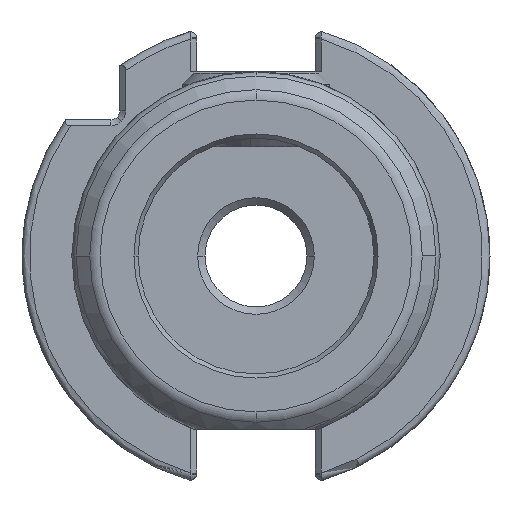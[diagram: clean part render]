
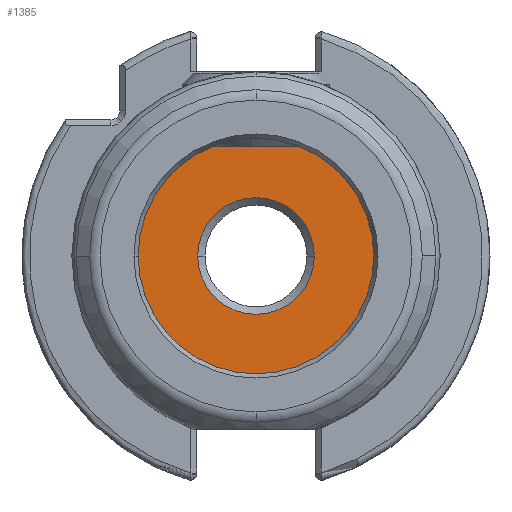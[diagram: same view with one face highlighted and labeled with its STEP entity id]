
A CAD part, front view. The second image highlights one B-rep face of the part: STEP entity #1385.
In plain terms, the highlighted planar face has unit normal (0, -1, 0).
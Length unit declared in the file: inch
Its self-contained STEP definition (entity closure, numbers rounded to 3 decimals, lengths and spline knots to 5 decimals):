
#1014 = FACE_BOUND ( 'NONE', #3598, .T. ) ;
#1130 = CIRCLE ( 'NONE', #7234, 0.64961 ) ;
#1143 = CIRCLE ( 'NONE', #10245, 0.64961 ) ;
#1376 = VERTEX_POINT ( 'NONE', #12884 ) ;
#1385 = ADVANCED_FACE ( 'NONE', ( #1014, #10292 ), #3394, .F. ) ;
#1591 = ORIENTED_EDGE ( 'NONE', *, *, #12943, .F. ) ;
#2280 = EDGE_LOOP ( 'NONE', ( #9679, #1591 ) ) ;
#3029 = CARTESIAN_POINT ( 'NONE',  ( 0.31171, 0.27559, 0. ) ) ;
#3293 = CARTESIAN_POINT ( 'NONE',  ( 0., 0.27559, 0. ) ) ;
#3305 = DIRECTION ( 'NONE',  ( 0., 1., 0. ) ) ;
#3394 = PLANE ( 'NONE',  #8132 ) ;
#3598 = EDGE_LOOP ( 'NONE', ( #8943, #12065 ) ) ;
#4442 = CIRCLE ( 'NONE', #11792, 0.31171 ) ;
#5159 = DIRECTION ( 'NONE',  ( 0., -1., 0. ) ) ;
#5458 = DIRECTION ( 'NONE',  ( 1., 0., 0. ) ) ;
#5579 = EDGE_CURVE ( 'NONE', #8983, #10605, #4442, .T. ) ;
#5804 = CIRCLE ( 'NONE', #14580, 0.31171 ) ;
#6680 = EDGE_CURVE ( 'NONE', #10605, #8983, #5804, .T. ) ;
#6819 = DIRECTION ( 'NONE',  ( 1., 0., 0. ) ) ;
#6868 = DIRECTION ( 'NONE',  ( 1., 0., 0. ) ) ;
#7234 = AXIS2_PLACEMENT_3D ( 'NONE', #3293, #11197, #5458 ) ;
#7498 = DIRECTION ( 'NONE',  ( 1., 0., 0. ) ) ;
#7592 = CARTESIAN_POINT ( 'NONE',  ( 0., 0.27559, 0. ) ) ;
#7849 = CARTESIAN_POINT ( 'NONE',  ( 0., 0.27559, 0. ) ) ;
#7964 = CARTESIAN_POINT ( 'NONE',  ( 0., 0.27559, 0. ) ) ;
#8012 = DIRECTION ( 'NONE',  ( 0., -1., 0. ) ) ;
#8132 = AXIS2_PLACEMENT_3D ( 'NONE', #7964, #3305, #6819 ) ;
#8515 = EDGE_CURVE ( 'NONE', #1376, #15000, #1143, .T. ) ;
#8943 = ORIENTED_EDGE ( 'NONE', *, *, #6680, .F. ) ;
#8983 = VERTEX_POINT ( 'NONE', #11952 ) ;
#9679 = ORIENTED_EDGE ( 'NONE', *, *, #8515, .F. ) ;
#10245 = AXIS2_PLACEMENT_3D ( 'NONE', #7849, #15128, #12701 ) ;
#10292 = FACE_OUTER_BOUND ( 'NONE', #2280, .T. ) ;
#10486 = CARTESIAN_POINT ( 'NONE',  ( 0., 0.27559, 0. ) ) ;
#10605 = VERTEX_POINT ( 'NONE', #3029 ) ;
#11197 = DIRECTION ( 'NONE',  ( 0., 1., 0. ) ) ;
#11792 = AXIS2_PLACEMENT_3D ( 'NONE', #10486, #8012, #6868 ) ;
#11952 = CARTESIAN_POINT ( 'NONE',  ( -0.31171, 0.27559, 0. ) ) ;
#12065 = ORIENTED_EDGE ( 'NONE', *, *, #5579, .F. ) ;
#12701 = DIRECTION ( 'NONE',  ( 1., 0., 0. ) ) ;
#12884 = CARTESIAN_POINT ( 'NONE',  ( 0.64961, 0.27559, 0. ) ) ;
#12943 = EDGE_CURVE ( 'NONE', #15000, #1376, #1130, .T. ) ;
#13708 = CARTESIAN_POINT ( 'NONE',  ( -0.64961, 0.27559, 0. ) ) ;
#14580 = AXIS2_PLACEMENT_3D ( 'NONE', #7592, #5159, #7498 ) ;
#15000 = VERTEX_POINT ( 'NONE', #13708 ) ;
#15128 = DIRECTION ( 'NONE',  ( 0., 1., 0. ) ) ;
